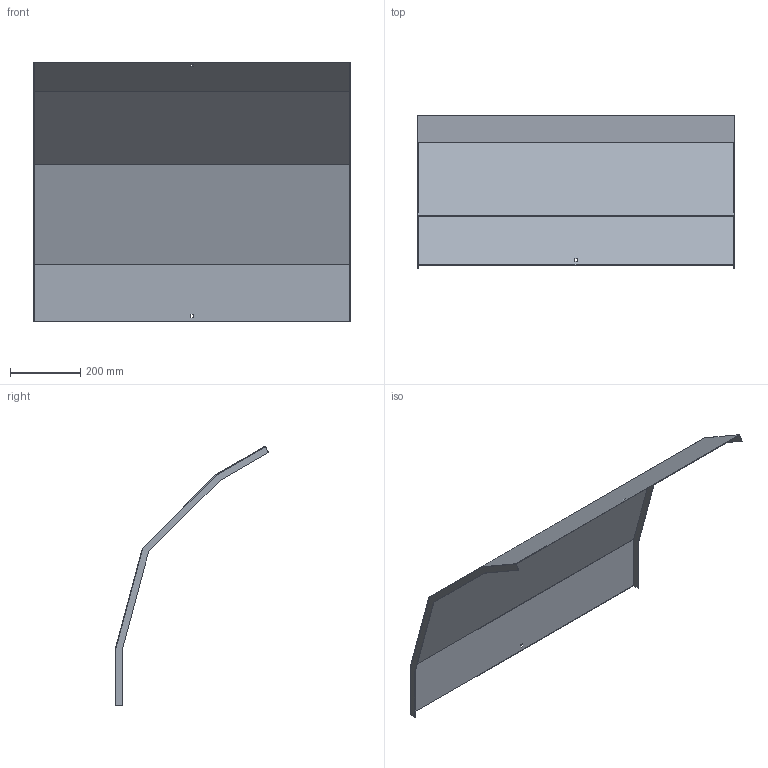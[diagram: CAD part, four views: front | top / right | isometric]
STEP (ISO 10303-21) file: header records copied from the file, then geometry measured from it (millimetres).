
FILE_DESCRIPTION (( 'STEP AP214' ), '1' );
FILE_NAME ('41N5C900.step', '2025-02-21T10:37:55', ( '' ), ( '' ), 'SwSTEP 2.0', 'SolidWorks 2023', '' );
FILE_SCHEMA (( 'AUTOMOTIVE_DESIGN' ));
Length unit declared in the file: millimetre
Products named in the file (1): 41N5C900
Bounding box: 903 x 437.72 x 740.83 mm (x, y, z)
Volume: 1294253.9 mm3; surface area: 1731281.3 mm2
Topology: 1 solids, 1 shells, 30 faces, 84 edges, 56 vertices
Faces by surface type: plane 30
Entity records: 979 total; most frequent: CARTESIAN_POINT 171, ORIENTED_EDGE 168, DIRECTION 146, EDGE_CURVE 84, VECTOR 84, LINE 84, VERTEX_POINT 56, EDGE_LOOP 34
